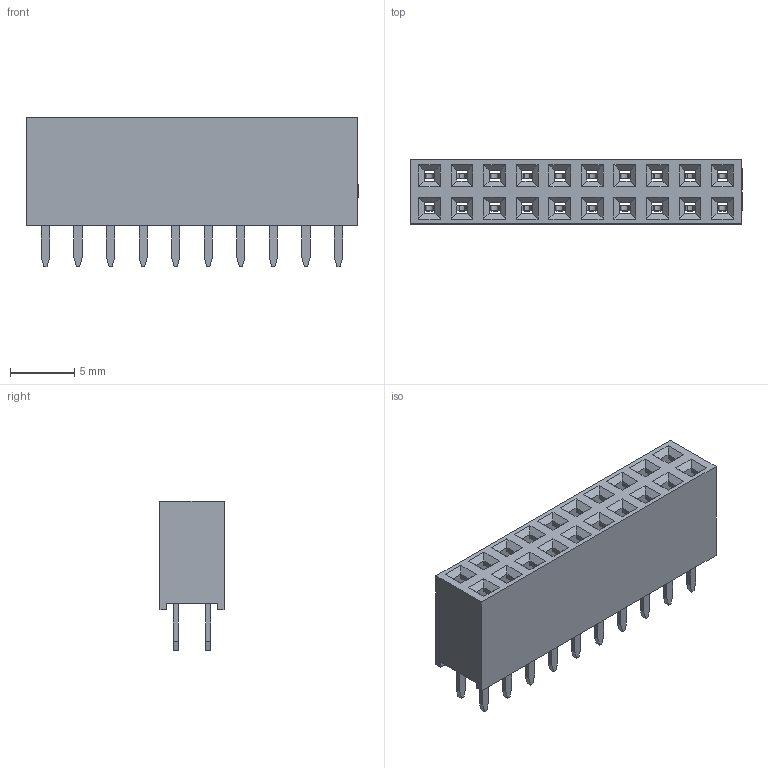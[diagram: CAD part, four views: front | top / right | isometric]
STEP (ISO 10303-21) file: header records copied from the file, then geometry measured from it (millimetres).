
FILE_DESCRIPTION (( 'STEP AP214' ), '1' );
FILE_NAME ('HDR-TH_32P-P2.54-V-F-1.STEP', '2025-03-14T01:33:51', ( '' ), ( '' ), 'SwSTEP 2.0', 'SolidWorks 2021', '' );
FILE_SCHEMA (( 'AUTOMOTIVE_DESIGN' ));
Length unit declared in the file: millimetre
Products named in the file (1): HDR-TH_32P-P2.54-V-F-1
Bounding box: 25.9 x 5 x 11.7 mm (x, y, z)
Volume: 864.1 mm3; surface area: 2297.4 mm2
Topology: 21 solids, 21 shells, 1214 faces, 3379 edges, 2226 vertices
Faces by surface type: plane 756, cylinder 360, bspline 98
Entity records: 52923 total; most frequent: CARTESIAN_POINT 8126, ORIENTED_EDGE 6758, DIRECTION 6133, EDGE_CURVE 3379, LINE 2459, VECTOR 2459, VERTEX_POINT 2226, AXIS2_PLACEMENT_3D 1837
